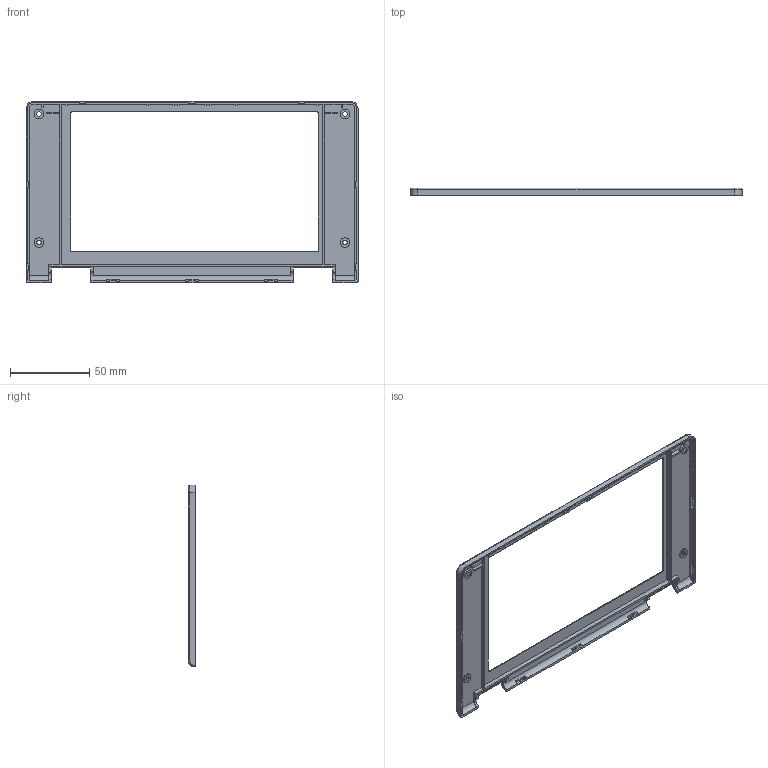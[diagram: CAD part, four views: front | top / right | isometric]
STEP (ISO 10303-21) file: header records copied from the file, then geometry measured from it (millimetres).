
FILE_DESCRIPTION (( 'STEP AP203' ), '1' );
FILE_NAME ('そ躉醱啣1.1.STEP', '2023-12-14T16:13:53', ( 'shan123' ), ( 'Razer' ), 'SwSTEP 2.0', 'SolidWorks 2018', '' );
FILE_SCHEMA (( 'CONFIG_CONTROL_DESIGN' ));
Length unit declared in the file: millimetre
Products named in the file (1): そ躉醱啣1.1
Bounding box: 209.6 x 5 x 114.9 mm (x, y, z)
Volume: 16734.9 mm3; surface area: 26402.8 mm2
Topology: 1 solids, 1 shells, 257 faces, 717 edges, 470 vertices
Faces by surface type: plane 204, cylinder 45, torus 4, cone 4
Entity records: 8244 total; most frequent: CARTESIAN_POINT 1445, ORIENTED_EDGE 1434, DIRECTION 1341, EDGE_CURVE 717, VECTOR 609, LINE 609, VERTEX_POINT 470, AXIS2_PLACEMENT_3D 366
